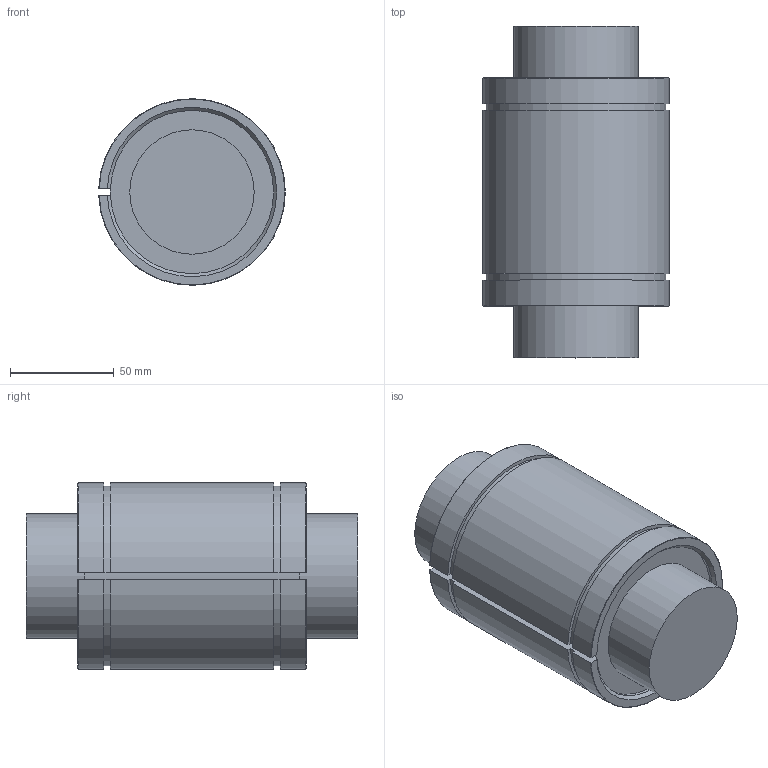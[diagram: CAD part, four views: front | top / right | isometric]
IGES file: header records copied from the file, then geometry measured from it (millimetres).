
Global section: file name: No Iges File Name specified; native system: Autodesk Inventor 2012; preprocessor: AutoDesk Inventor Iges Exporter R2012; author: user2; date: 20130206.101746; units: millimetre
Bounding box: 89.97 x 160 x 89.99 mm (x, y, z)
Volume: 823489 mm3; surface area: 58390.7 mm2
Topology: 1 solids, 1 shells, 26 faces, 64 edges, 42 vertices
Faces by surface type: plane 12, cylinder 8, revolution 4, torus 2
Full cylindrical faces by diameter (mm): 60 x2
